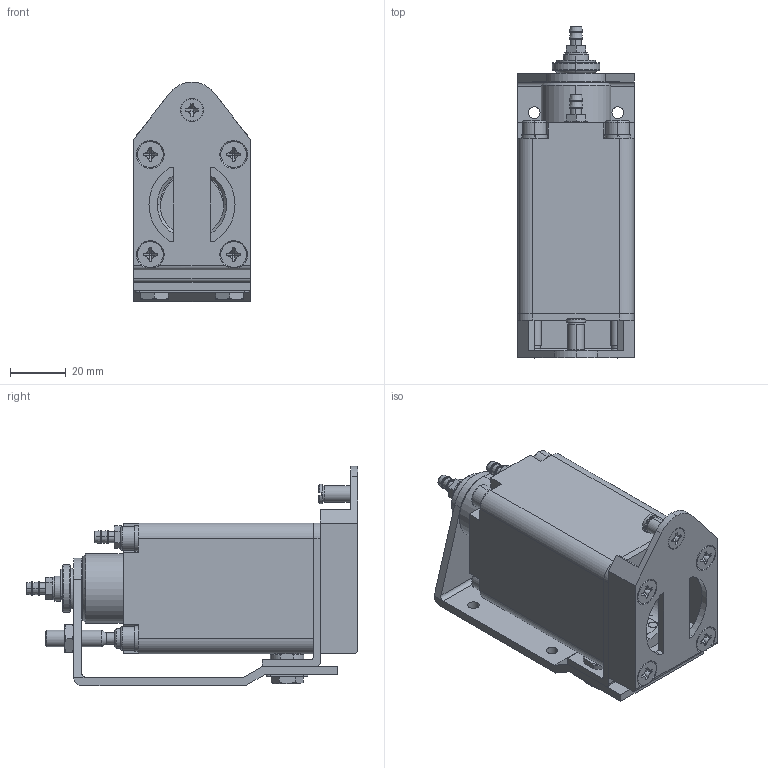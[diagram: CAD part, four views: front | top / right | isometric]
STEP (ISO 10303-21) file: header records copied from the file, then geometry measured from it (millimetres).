
FILE_DESCRIPTION (( 'STEP AP214' ), '1' );
FILE_NAME ('GT-NY25R.STEP', '2019-11-26T09:11:09', ( '微软用户' ), ( '微软中国' ), 'SwSTEP 2.0', 'SolidWorks 2016', '' );
FILE_SCHEMA (( 'AUTOMOTIVE_DESIGN' ));
Length unit declared in the file: millimetre
Products named in the file (1): GT-NY25R
Bounding box: 42 x 119.4 x 79 mm (x, y, z)
Surface area: 51742.3 mm2 (no closed solid volume)
Topology: 0 solids, 113 shells, 903 faces, 2439 edges, 1703 vertices
Faces by surface type: plane 413, cylinder 292, bspline 124, cone 54, torus 20
Entity records: 42408 total; most frequent: CARTESIAN_POINT 14958, ORIENTED_EDGE 4405, DIRECTION 4176, EDGE_CURVE 2429, VERTEX_POINT 1703, AXIS2_PLACEMENT_3D 1582, EDGE_LOOP 1023, LINE 1012
